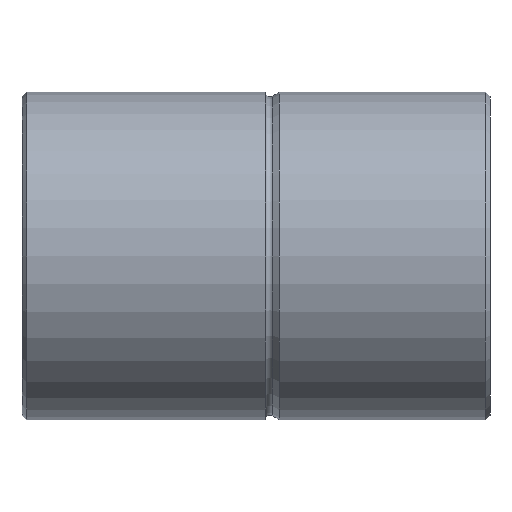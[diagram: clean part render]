
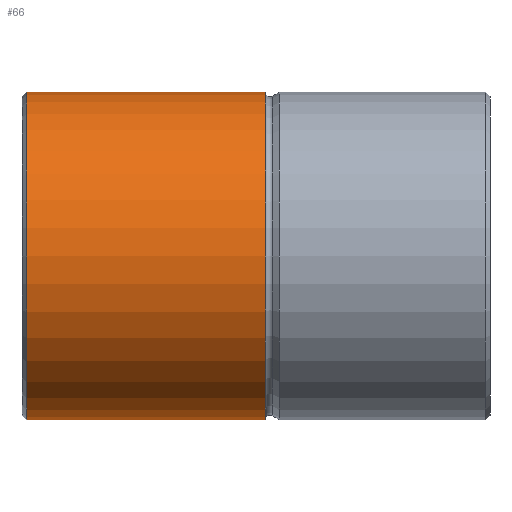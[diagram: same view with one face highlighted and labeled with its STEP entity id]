
A CAD part, front view. The second image highlights one B-rep face of the part: STEP entity #66.
In plain terms, the highlighted cylindrical face has radius 35.02 mm (diameter 70.04 mm), a full revolution.
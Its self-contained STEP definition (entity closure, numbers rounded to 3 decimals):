
#66 = ADVANCED_FACE( '', ( #142, #143, #144 ), #145, .T. );
#142 = FACE_OUTER_BOUND( '', #215, .T. );
#143 = FACE_BOUND( '', #216, .T. );
#144 = FACE_OUTER_BOUND( '', #217, .T. );
#145 = CYLINDRICAL_SURFACE( '', #218, 35.02 );
#215 = EDGE_LOOP( '', ( #308 ) );
#216 = EDGE_LOOP( '', ( #309 ) );
#217 = EDGE_LOOP( '', ( #310 ) );
#218 = AXIS2_PLACEMENT_3D( '', #311, #312, #313 );
#308 = ORIENTED_EDGE( '', *, *, #334, .T. );
#309 = ORIENTED_EDGE( '', *, *, #348, .T. );
#310 = ORIENTED_EDGE( '', *, *, #339, .F. );
#311 = CARTESIAN_POINT( '', ( 0., 0., 0. ) );
#312 = DIRECTION( '', ( -1., 0., 0. ) );
#313 = DIRECTION( '', ( 0., 0., -1. ) );
#334 = EDGE_CURVE( '', #372, #372, #373, .T. );
#339 = EDGE_CURVE( '', #380, #380, #381, .T. );
#348 = EDGE_CURVE( '', #394, #394, #395, .T. );
#372 = VERTEX_POINT( '', #422 );
#373 = CIRCLE( '', #423, 35.02 );
#380 = VERTEX_POINT( '', #430 );
#381 = CIRCLE( '', #431, 35.02 );
#394 = VERTEX_POINT( '', #444 );
#395 = B_SPLINE_CURVE_WITH_KNOTS( '', 3, ( #445, #446, #447, #448, #449, #450, #451, #452, #453, #454, #455, #456, #457, #458, #459, #460, #461, #462, #463, #464, #465, #466, #467, #468, #469, #470, #471, #472, #473, #474, #475, #476, #477, #478, #479, #480, #481, #482, #483, #484, #485, #486, #487, #488, #489, #490, #491, #492, #493, #494, #495, #496, #497, #498, #499, #500, #501, #502, #503, #504, #505, #506 ), .UNSPECIFIED., .T., .F., ( 2, 2, 2, 2, 2, 2, 2, 2, 2, 2, 2, 2, 2, 2, 2, 2, 2, 2, 2, 2, 2, 2, 2, 2, 2, 2, 2, 2, 2, 2, 2, 2, 2 ), ( -0.001, 0., 0., 0.001, 0.001, 0.002, 0.002, 0.003, 0.003, 0.004, 0.004, 0.005, 0.005, 0.006, 0.006, 0.007, 0.007, 0.008, 0.008, 0.009, 0.01, 0.01, 0.011, 0.011, 0.012, 0.012, 0.013, 0.013, 0.014, 0.014, 0.015, 0.016, 0.016 ), .UNSPECIFIED. );
#422 = CARTESIAN_POINT( '', ( -99., 0., -35.02 ) );
#423 = AXIS2_PLACEMENT_3D( '', #584, #585, #586 );
#430 = CARTESIAN_POINT( '', ( -48., 0., -35.02 ) );
#431 = AXIS2_PLACEMENT_3D( '', #593, #594, #595 );
#444 = CARTESIAN_POINT( '', ( -90., 34.931, -2.5 ) );
#445 = CARTESIAN_POINT( '', ( -90.33, 34.931, -2.5 ) );
#446 = CARTESIAN_POINT( '', ( -89.835, 34.931, -2.5 ) );
#447 = CARTESIAN_POINT( '', ( -89.672, 34.932, -2.484 ) );
#448 = CARTESIAN_POINT( '', ( -89.353, 34.936, -2.42 ) );
#449 = CARTESIAN_POINT( '', ( -89.194, 34.94, -2.372 ) );
#450 = CARTESIAN_POINT( '', ( -88.891, 34.948, -2.247 ) );
#451 = CARTESIAN_POINT( '', ( -88.748, 34.953, -2.17 ) );
#452 = CARTESIAN_POINT( '', ( -88.476, 34.964, -1.988 ) );
#453 = CARTESIAN_POINT( '', ( -88.347, 34.97, -1.883 ) );
#454 = CARTESIAN_POINT( '', ( -88.117, 34.981, -1.652 ) );
#455 = CARTESIAN_POINT( '', ( -88.013, 34.987, -1.526 ) );
#456 = CARTESIAN_POINT( '', ( -87.831, 34.998, -1.253 ) );
#457 = CARTESIAN_POINT( '', ( -87.753, 35.003, -1.108 ) );
#458 = CARTESIAN_POINT( '', ( -87.628, 35.011, -0.807 ) );
#459 = CARTESIAN_POINT( '', ( -87.58, 35.014, -0.649 ) );
#460 = CARTESIAN_POINT( '', ( -87.516, 35.019, -0.327 ) );
#461 = CARTESIAN_POINT( '', ( -87.5, 35.02, -0.164 ) );
#462 = CARTESIAN_POINT( '', ( -87.5, 35.02, 0.162 ) );
#463 = CARTESIAN_POINT( '', ( -87.516, 35.019, 0.327 ) );
#464 = CARTESIAN_POINT( '', ( -87.58, 35.014, 0.648 ) );
#465 = CARTESIAN_POINT( '', ( -87.627, 35.011, 0.804 ) );
#466 = CARTESIAN_POINT( '', ( -87.752, 35.003, 1.107 ) );
#467 = CARTESIAN_POINT( '', ( -87.831, 34.998, 1.253 ) );
#468 = CARTESIAN_POINT( '', ( -88.011, 34.987, 1.524 ) );
#469 = CARTESIAN_POINT( '', ( -88.115, 34.981, 1.65 ) );
#470 = CARTESIAN_POINT( '', ( -88.348, 34.969, 1.884 ) );
#471 = CARTESIAN_POINT( '', ( -88.474, 34.964, 1.987 ) );
#472 = CARTESIAN_POINT( '', ( -88.745, 34.953, 2.168 ) );
#473 = CARTESIAN_POINT( '', ( -88.891, 34.948, 2.247 ) );
#474 = CARTESIAN_POINT( '', ( -89.194, 34.94, 2.372 ) );
#475 = CARTESIAN_POINT( '', ( -89.35, 34.936, 2.419 ) );
#476 = CARTESIAN_POINT( '', ( -89.67, 34.932, 2.484 ) );
#477 = CARTESIAN_POINT( '', ( -89.836, 34.931, 2.5 ) );
#478 = CARTESIAN_POINT( '', ( -90.162, 34.931, 2.5 ) );
#479 = CARTESIAN_POINT( '', ( -90.324, 34.932, 2.484 ) );
#480 = CARTESIAN_POINT( '', ( -90.647, 34.936, 2.42 ) );
#481 = CARTESIAN_POINT( '', ( -90.805, 34.94, 2.372 ) );
#482 = CARTESIAN_POINT( '', ( -91.256, 34.952, 2.186 ) );
#483 = CARTESIAN_POINT( '', ( -91.535, 34.964, 2. ) );
#484 = CARTESIAN_POINT( '', ( -91.881, 34.981, 1.654 ) );
#485 = CARTESIAN_POINT( '', ( -91.987, 34.987, 1.526 ) );
#486 = CARTESIAN_POINT( '', ( -92.169, 34.998, 1.254 ) );
#487 = CARTESIAN_POINT( '', ( -92.246, 35.003, 1.111 ) );
#488 = CARTESIAN_POINT( '', ( -92.371, 35.011, 0.808 ) );
#489 = CARTESIAN_POINT( '', ( -92.42, 35.014, 0.649 ) );
#490 = CARTESIAN_POINT( '', ( -92.483, 35.019, 0.33 ) );
#491 = CARTESIAN_POINT( '', ( -92.5, 35.02, 0.167 ) );
#492 = CARTESIAN_POINT( '', ( -92.5, 35.02, -0.163 ) );
#493 = CARTESIAN_POINT( '', ( -92.484, 35.019, -0.325 ) );
#494 = CARTESIAN_POINT( '', ( -92.421, 35.014, -0.645 ) );
#495 = CARTESIAN_POINT( '', ( -92.373, 35.011, -0.804 ) );
#496 = CARTESIAN_POINT( '', ( -92.248, 35.003, -1.107 ) );
#497 = CARTESIAN_POINT( '', ( -92.171, 34.998, -1.25 ) );
#498 = CARTESIAN_POINT( '', ( -91.99, 34.987, -1.522 ) );
#499 = CARTESIAN_POINT( '', ( -91.884, 34.981, -1.651 ) );
#500 = CARTESIAN_POINT( '', ( -91.654, 34.97, -1.882 ) );
#501 = CARTESIAN_POINT( '', ( -91.528, 34.964, -1.985 ) );
#502 = CARTESIAN_POINT( '', ( -91.255, 34.953, -2.168 ) );
#503 = CARTESIAN_POINT( '', ( -91.11, 34.948, -2.246 ) );
#504 = CARTESIAN_POINT( '', ( -90.659, 34.936, -2.434 ) );
#505 = CARTESIAN_POINT( '', ( -90.33, 34.931, -2.5 ) );
#506 = CARTESIAN_POINT( '', ( -89.835, 34.931, -2.5 ) );
#584 = CARTESIAN_POINT( '', ( -99., 0., 0. ) );
#585 = DIRECTION( '', ( 1., 0., 0. ) );
#586 = DIRECTION( '', ( 0., 0., -1. ) );
#593 = CARTESIAN_POINT( '', ( -48., 0., 0. ) );
#594 = DIRECTION( '', ( 1., 0., 0. ) );
#595 = DIRECTION( '', ( 0., 0., -1. ) );
